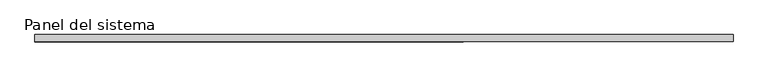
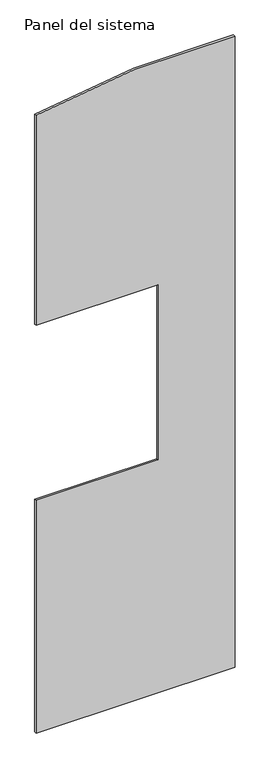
"""IFC4 building model written with IfcOpenShell, lengths in millimetres: plate geometry, Panel del sistema : HIANSA PANEL - PANELES DE CUBIERTA SIN TAPAJUNTA - EASY AGRO 5GR - Esp. 10mm."""

from ifc_helpers import new_model, si_unit, point, frame, frame_2d, origin, place, context, project, spatial, polyline, circle_curve, trimmed, segment, composite_curve, outline, extrude, source, transform, mapped, element, save


def panel_del_sistema_39f9ac87(model_context):
    return source(origin(), model_context, "Body", "SweptSolid", [
        extrude(outline(composite_curve([segment(polyline([(0.0, -500.0), (0.0, 500.0), (3352.121009, 500.0)]), True, "CONTINUOUS"), segment(trimmed(circle_curve(frame_2d((-233.0990651, 249.9999997)), 3593.9258451), [point((3352.121009, 500.0))], [point((3281.6986503, -500.0))], False, "CARTESIAN"), True, "CONTINUOUS"), segment(polyline([(3281.6986503, -500.0), (2165.9777068, -500.0), (2165.9777068, 113.5365213), (1235.7994909, 113.5365213), (1235.7994909, -500.0), (0.0, -500.0)]), True, "CONTINUOUS")], self_intersect=False)), frame((0.0, 0.0, 0.0), z_axis=(0.0, 1.0, 0.0), x_axis=(0.0, 0.0, 1.0)), (0.0, 0.0, 1.0), 10.0),
    ])


if __name__ == "__main__":
    model = new_model("IFC4")
    model_context = context("Model", 3, world=origin())
    ifc_project = project(units=[si_unit("LENGTHUNIT", "METRE", prefix="MILLI")], contexts=[model_context])
    site = spatial("IfcSite", under=ifc_project)
    building = spatial("IfcBuilding", under=site)
    placement = place(None, origin())
    panel_del_sistema_shape = panel_del_sistema_39f9ac87(model_context)
    element("IfcPlate", 1, ObjectType="Panel del sistema : HIANSA PANEL - PANELES DE CUBIERTA SIN TAPAJUNTA - EASY AGRO 5GR - Esp. 10mm", at=placement, inside=building, context=model_context, shape_type="MappedRepresentation", body=[
        mapped(panel_del_sistema_shape, transform((0.0, 0.0, 0.0), x_axis=(1.0, 0.0, 0.0), y_axis=(0.0, 1.0, 0.0), z_axis=(0.0, 0.0, 1.0))),
    ])
    save(model, "model.ifc")
